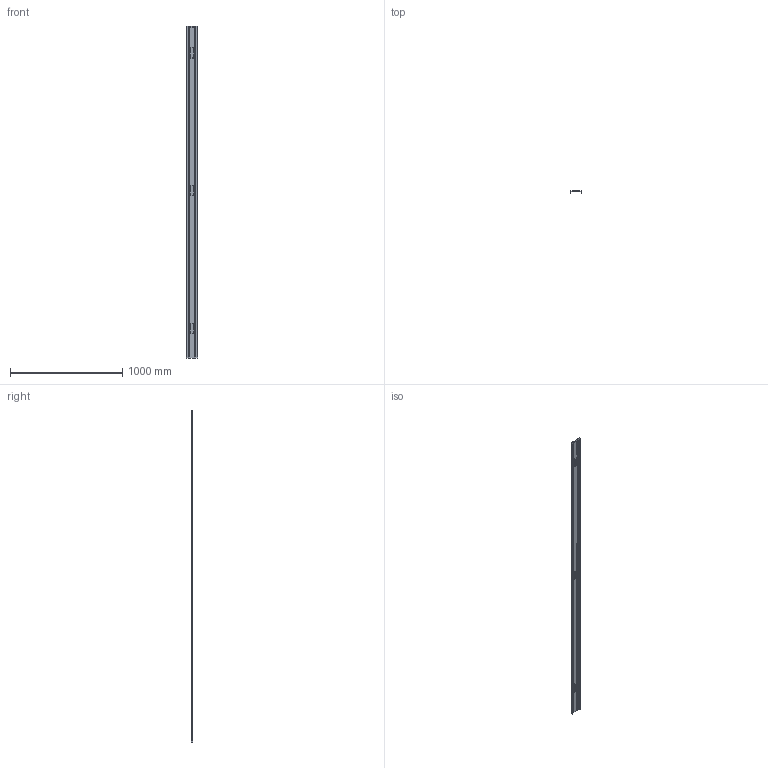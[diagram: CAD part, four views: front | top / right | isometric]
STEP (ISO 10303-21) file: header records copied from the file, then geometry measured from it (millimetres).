
FILE_DESCRIPTION (( 'STEP AP203' ), '1' );
FILE_NAME ('Tapa TERE 100 100.step', '2023-07-27T18:58:53', ( '' ), ( '' ), 'SwSTEP 2.0', 'SolidWorks 2022', '' );
FILE_SCHEMA (( 'CONFIG_CONTROL_DESIGN' ));
Length unit declared in the file: millimetre
Products named in the file (1): Tapa TERE 100 100
Bounding box: 101 x 15 x 2960 mm (x, y, z)
Surface area: 782118.5 mm2 (no closed solid volume)
Topology: 0 solids, 8 shells, 570 faces, 1506 edges, 975 vertices
Faces by surface type: plane 309, bspline 149, cylinder 88, torus 24
Entity records: 24690 total; most frequent: CARTESIAN_POINT 11340, ORIENTED_EDGE 2944, DIRECTION 2343, EDGE_CURVE 1506, VERTEX_POINT 975, VECTOR 913, LINE 913, AXIS2_PLACEMENT_3D 715
